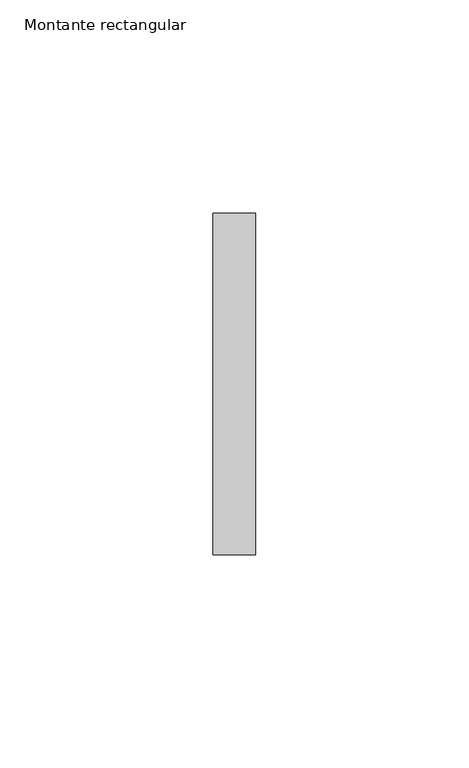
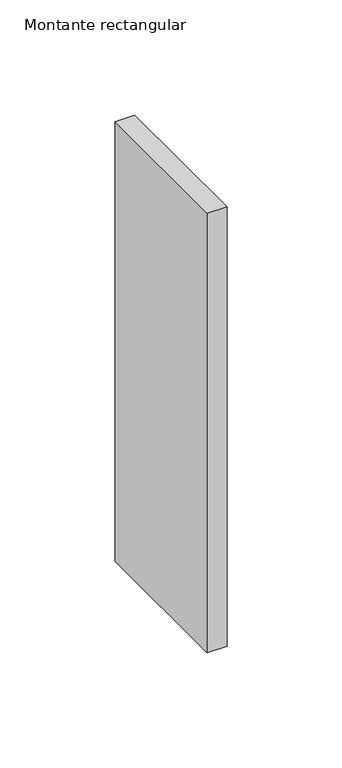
"""IFC4 building model written with IfcOpenShell, lengths in millimetres: member geometry, Montante rectangular : Junta de paves."""

from ifc_helpers import new_model, si_unit, frame, origin, place, context, project, spatial, polyline, outline, extrude, source, transform, mapped, element, save


def montante_rectangular_c4fc7d1e(model_context):
    return source(origin(), model_context, "Body", "SweptSolid", [
        extrude(outline(polyline([(-10.0, 40.0), (0.0, 40.0), (0.0, -40.0), (-10.0, -40.0), (-10.0, 40.0)])), frame((0.0, 0.0, -233.3333333), z_axis=(0.0, 0.0, 1.0), x_axis=(1.0, 0.0, 0.0)), (0.0, 0.0, 1.0), 233.3333333),
    ])


if __name__ == "__main__":
    model = new_model("IFC4")
    model_context = context("Model", 3, world=origin())
    ifc_project = project(units=[si_unit("LENGTHUNIT", "METRE", prefix="MILLI")], contexts=[model_context])
    site = spatial("IfcSite", under=ifc_project)
    building = spatial("IfcBuilding", under=site)
    placement = place(None, origin())
    montante_rectangular_shape = montante_rectangular_c4fc7d1e(model_context)
    element("IfcMember", 1, ObjectType="Montante rectangular : Junta de paves", at=placement, inside=building, context=model_context, shape_type="MappedRepresentation", body=[
        mapped(montante_rectangular_shape, transform((0.0, 0.0, 0.0), x_axis=(1.0, 0.0, 0.0), y_axis=(0.0, 1.0, 0.0), z_axis=(0.0, 0.0, 1.0))),
    ])
    save(model, "model.ifc")
